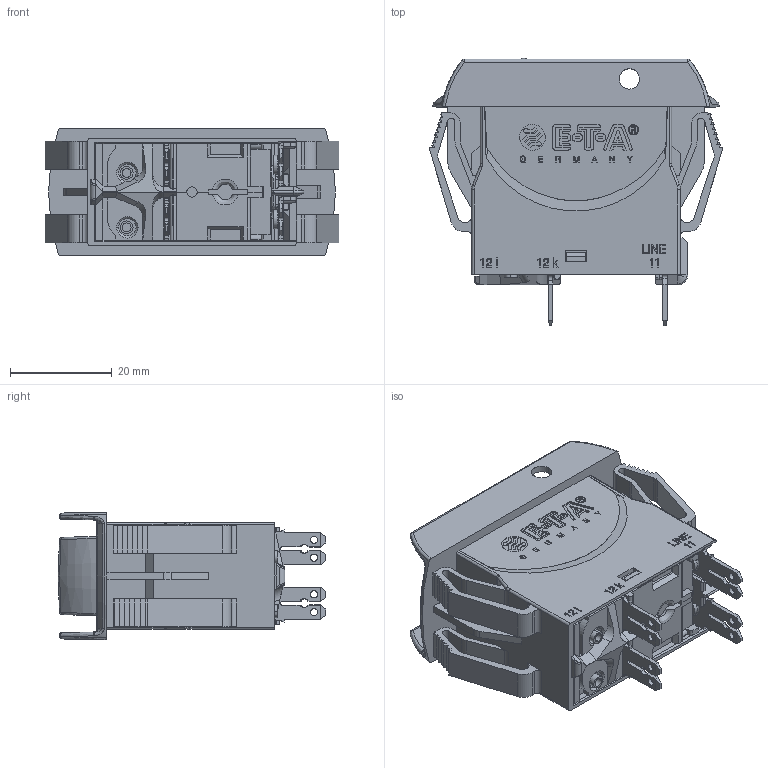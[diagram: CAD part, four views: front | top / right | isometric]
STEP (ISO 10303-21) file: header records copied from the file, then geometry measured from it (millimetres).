
FILE_DESCRIPTION((''),'2;1');
FILE_NAME('DUMMY-3120-N32A-P7','2019-08-07T13:07:53',('wschmidt'),(''),'CREO PARAMETRIC BY PTC INC, 2017260','CREO PARAMETRIC BY PTC INC, 2017260','');
FILE_SCHEMA(('AUTOMOTIVE_DESIGN { 1 0 10303 214 1 1 1 1 }'));
Products named in the file (1): DUMMY-3120-N32A-P7
Bounding box: 57.8 x 52.56 x 25.07 mm (x, y, z)
Volume: 31636.7 mm3; surface area: 20920.1 mm2
Topology: 1 solids, 2 shells, 1865 faces, 5111 edges, 3323 vertices
Faces by surface type: plane 1098, extrusion 306, cylinder 304, bspline 89, torus 43, cone 13, sphere 12
Entity records: 68209 total; most frequent: CARTESIAN_POINT 22301, ORIENTED_EDGE 10220, DIRECTION 7828, EDGE_CURVE 5110, VECTOR 3834, LINE 3528, VERTEX_POINT 3323, AXIS2_PLACEMENT_3D 1997
